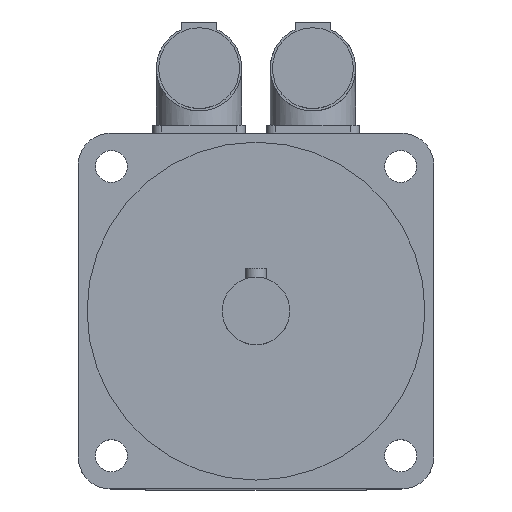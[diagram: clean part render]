
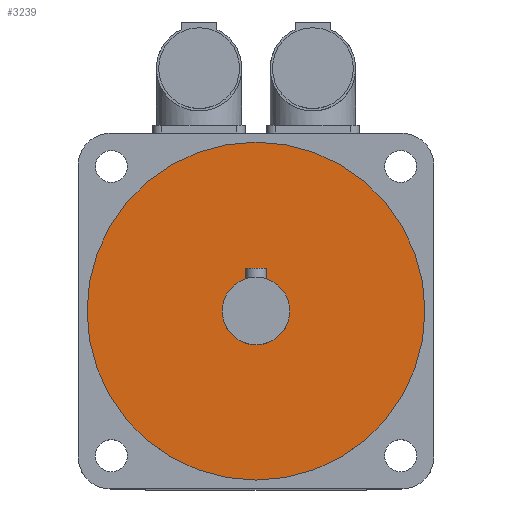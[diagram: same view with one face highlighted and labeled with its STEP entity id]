
A CAD part, top view. The second image highlights one B-rep face of the part: STEP entity #3239.
In plain terms, the highlighted planar face has unit normal (0, 0, 1).
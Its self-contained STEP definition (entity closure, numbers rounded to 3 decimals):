
#36=FACE_BOUND('',#567,.T.);
#71=PLANE('',#3478);
#182=CIRCLE('',#3473,9.5);
#183=CIRCLE('',#3476,47.5);
#368=FACE_OUTER_BOUND('',#566,.T.);
#566=EDGE_LOOP('',(#2309));
#567=EDGE_LOOP('',(#2310));
#1393=VERTEX_POINT('',#5230);
#1394=VERTEX_POINT('',#5234);
#1743=EDGE_CURVE('',#1393,#1393,#182,.T.);
#1744=EDGE_CURVE('',#1394,#1394,#183,.T.);
#2309=ORIENTED_EDGE('',*,*,#1744,.T.);
#2310=ORIENTED_EDGE('',*,*,#1743,.T.);
#3239=ADVANCED_FACE('',(#368,#36),#71,.F.);
#3473=AXIS2_PLACEMENT_3D('',#5231,#3962,#3963);
#3476=AXIS2_PLACEMENT_3D('',#5235,#3968,#3969);
#3478=AXIS2_PLACEMENT_3D('',#5238,#3972,#3973);
#3962=DIRECTION('center_axis',(0.,0.,-1.));
#3963=DIRECTION('ref_axis',(-1.,0.,0.));
#3968=DIRECTION('center_axis',(0.,0.,
1.));
#3969=DIRECTION('ref_axis',(-1.,0.,0.));
#3972=DIRECTION('center_axis',(0.,0.,-1.));
#3973=DIRECTION('ref_axis',(-1.,0.,0.));
#5230=CARTESIAN_POINT('',(9.5,0.,150.));
#5231=CARTESIAN_POINT('Origin',(0.,0.,
150.));
#5234=CARTESIAN_POINT('',(47.5,0.,150.));
#5235=CARTESIAN_POINT('Origin',(0.,0.,
150.));
#5238=CARTESIAN_POINT('Origin',(0.,0.,
150.));
